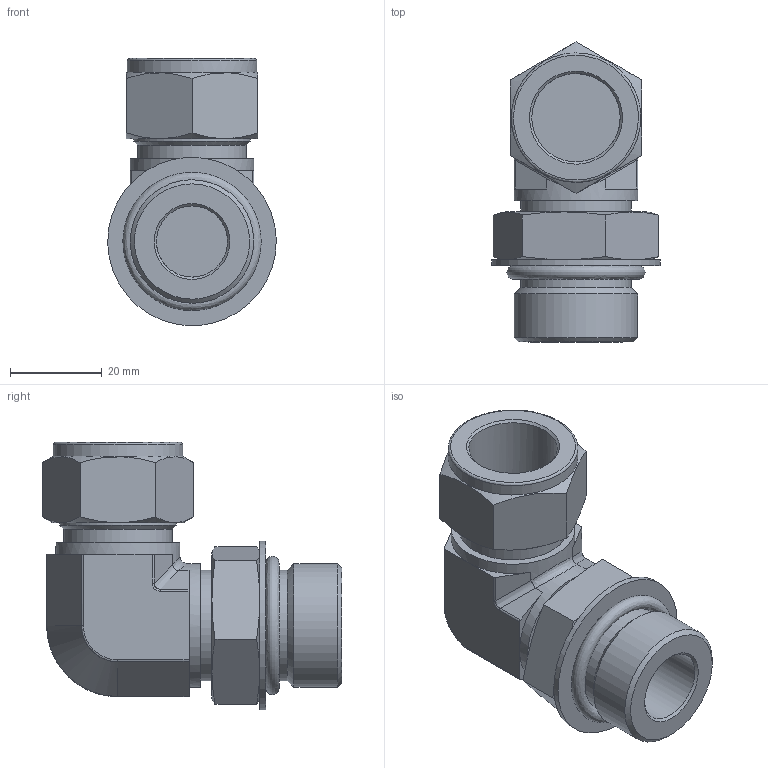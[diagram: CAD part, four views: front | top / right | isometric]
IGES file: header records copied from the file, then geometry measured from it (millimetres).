
Global section: file name: SPME-12-12U; native system: Autodesk Inventor 2016; preprocessor: unknown; author: DESIGNPC2; date: 20160115.130111; units: millimetre
Bounding box: 36.7 x 65.3 x 58.21 mm (x, y, z)
Volume: 44081.5 mm3; surface area: 17308.1 mm2
Topology: 4 solids, 4 shells, 128 faces, 309 edges, 196 vertices
Faces by surface type: bspline 128
